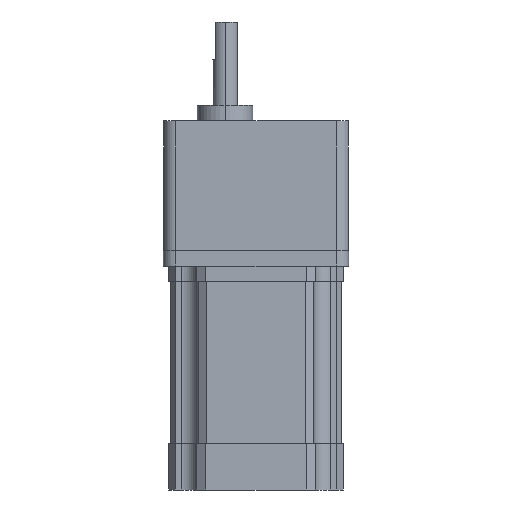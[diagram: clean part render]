
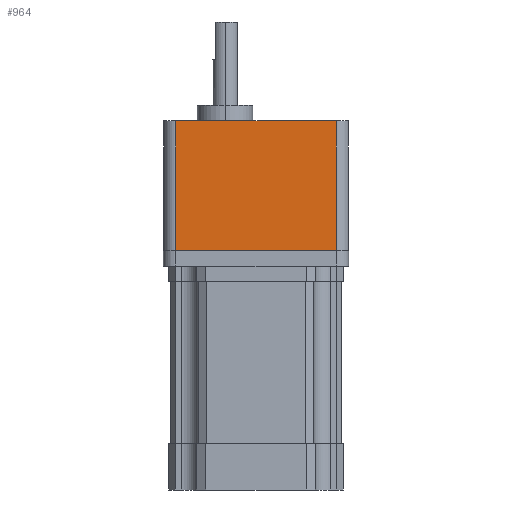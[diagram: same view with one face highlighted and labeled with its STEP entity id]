
A CAD part, left-side view. The second image highlights one B-rep face of the part: STEP entity #964.
In plain terms, the highlighted planar face has unit normal (-1, 0, 0).
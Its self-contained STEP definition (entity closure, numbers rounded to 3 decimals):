
#273 = LINE ( 'NONE', #880, #923 ) ;
#868 = CARTESIAN_POINT ( 'NONE',  ( -29.9, -25.9, 42. ) ) ;
#878 = DIRECTION ( 'NONE',  ( 0., 0., -1. ) ) ;
#880 = CARTESIAN_POINT ( 'NONE',  ( -29.9, 25.9, 42. ) ) ;
#907 = DIRECTION ( 'NONE',  ( 0., 0., -1. ) ) ;
#923 = VECTOR ( 'NONE', #907, 1000. ) ;
#930 = ORIENTED_EDGE ( 'NONE', *, *, #3102, .T. ) ;
#964 = ADVANCED_FACE ( 'NONE', ( #2476 ), #1691, .F. ) ;
#981 = ORIENTED_EDGE ( 'NONE', *, *, #1414, .F. ) ;
#992 = ORIENTED_EDGE ( 'NONE', *, *, #3030, .F. ) ;
#995 = ORIENTED_EDGE ( 'NONE', *, *, #1408, .T. ) ;
#1310 = LINE ( 'NONE', #2427, #2055 ) ;
#1408 = EDGE_CURVE ( 'NONE', #3903, #4038, #273, .T. ) ;
#1414 = EDGE_CURVE ( 'NONE', #3910, #3921, #1828, .T. ) ;
#1632 = VECTOR ( 'NONE', #2786, 1000. ) ;
#1634 = DIRECTION ( 'NONE',  ( 0., 0., -1. ) ) ;
#1636 = DIRECTION ( 'NONE',  ( 1., 0., 0. ) ) ;
#1641 = CARTESIAN_POINT ( 'NONE',  ( -29.9, -25.9, 42. ) ) ;
#1691 = PLANE ( 'NONE',  #2037 ) ;
#1821 = LINE ( 'NONE', #2798, #1632 ) ;
#1828 = LINE ( 'NONE', #868, #3321 ) ;
#2037 = AXIS2_PLACEMENT_3D ( 'NONE', #1641, #1636, #1634 ) ;
#2055 = VECTOR ( 'NONE', #2425, 1000. ) ;
#2425 = DIRECTION ( 'NONE',  ( 0., -1., 0. ) ) ;
#2427 = CARTESIAN_POINT ( 'NONE',  ( -29.9, -25.9, 0. ) ) ;
#2476 = FACE_OUTER_BOUND ( 'NONE', #3469, .T. ) ;
#2786 = DIRECTION ( 'NONE',  ( 0., -1., 0. ) ) ;
#2798 = CARTESIAN_POINT ( 'NONE',  ( -29.9, -25.9, 42. ) ) ;
#2817 = CARTESIAN_POINT ( 'NONE',  ( -29.9, -25.9, 0. ) ) ;
#2830 = CARTESIAN_POINT ( 'NONE',  ( -29.9, -25.9, 42. ) ) ;
#3030 = EDGE_CURVE ( 'NONE', #3903, #3910, #1821, .T. ) ;
#3102 = EDGE_CURVE ( 'NONE', #4038, #3921, #1310, .T. ) ;
#3321 = VECTOR ( 'NONE', #878, 1000. ) ;
#3469 = EDGE_LOOP ( 'NONE', ( #930, #981, #992, #995 ) ) ;
#3557 = CARTESIAN_POINT ( 'NONE',  ( -29.9, 25.9, 0. ) ) ;
#3850 = CARTESIAN_POINT ( 'NONE',  ( -29.9, 25.9, 42. ) ) ;
#3903 = VERTEX_POINT ( 'NONE', #3850 ) ;
#3910 = VERTEX_POINT ( 'NONE', #2830 ) ;
#3921 = VERTEX_POINT ( 'NONE', #2817 ) ;
#4038 = VERTEX_POINT ( 'NONE', #3557 ) ;
